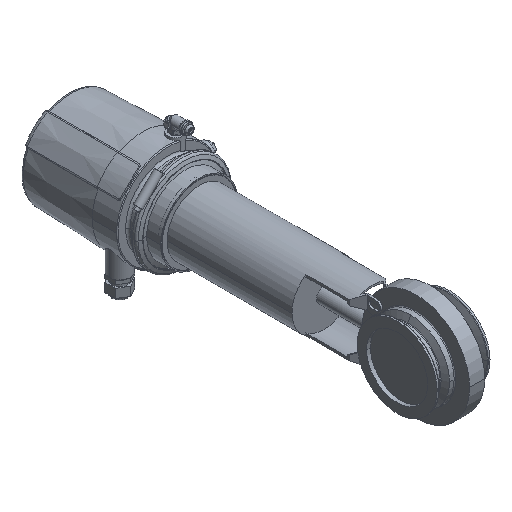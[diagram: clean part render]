
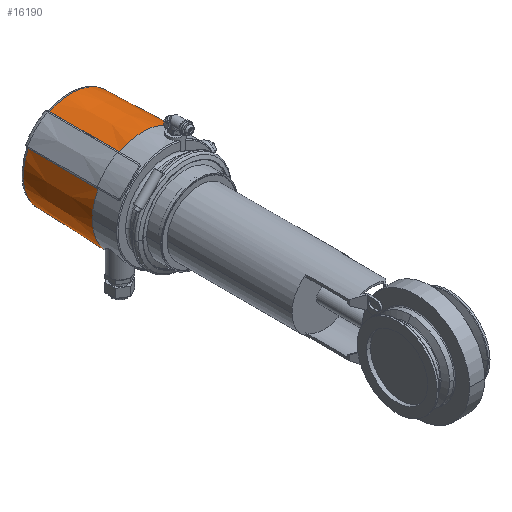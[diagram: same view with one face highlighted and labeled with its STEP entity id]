
A CAD part, isometric view. The second image highlights one B-rep face of the part: STEP entity #16190.
In plain terms, the highlighted conical face has half-angle 2 degrees and reference radius 66.69 mm.
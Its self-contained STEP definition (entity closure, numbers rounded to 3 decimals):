
#15470=CARTESIAN_POINT('',(0.,71.37,0.));
#15480=DIRECTION('',(0.,-1.,0.));
#15490=DIRECTION('',(-1.,-0.,0.));
#15500=AXIS2_PLACEMENT_3D('',#15470,#15480,#15490);
#15510=CONICAL_SURFACE('',#15500,66.69,0.035);
#15520=CARTESIAN_POINT('',(-31.074,62.5,
59.358));
#15530=CARTESIAN_POINT('',(-30.972,66.459,
59.256));
#15540=CARTESIAN_POINT('',(-30.869,70.417,
59.153));
#15550=CARTESIAN_POINT('',(-30.767,74.376,
59.051));
#15560=CARTESIAN_POINT('',(-30.664,78.335,
58.948));
#15570=CARTESIAN_POINT('',(-30.562,82.294,
58.846));
#15580=CARTESIAN_POINT('',(-30.459,86.252,
58.743));
#15590=CARTESIAN_POINT('',(-30.254,94.17,
58.538));
#15600=CARTESIAN_POINT('',(-30.049,102.087,
58.333));
#15610=CARTESIAN_POINT('',(-29.843,110.004,
58.128));
#15620=CARTESIAN_POINT('',(-29.638,117.922,
57.922));
#15630=CARTESIAN_POINT('',(-29.433,125.839,
57.717));
#15640=CARTESIAN_POINT('',(-29.227,133.757,
57.511));
#15650=CARTESIAN_POINT('',(-29.021,141.674,
57.306));
#15660=CARTESIAN_POINT('',(-28.816,149.591,
57.1));
#15670=CARTESIAN_POINT('',(-28.61,157.509,
56.894));
#15680=B_SPLINE_CURVE_WITH_KNOTS('',3,(#15520,#15530,#15540,#15550,
#15560,#15570,#15580,#15590,#15600,#15610,#15620,#15630,#15640,#15650,
#15660,#15670),.UNSPECIFIED.,.F.,.F.,(4,3,3,3,3,4),(0.,11.884,
23.768,47.536,71.305,95.073),
.UNSPECIFIED.);
#15690=CARTESIAN_POINT('',(-31.074,62.5,
59.358));
#15700=VERTEX_POINT('',#15690);
#15710=CARTESIAN_POINT('',(-28.61,157.509,
56.894));
#15720=VERTEX_POINT('',#15710);
#15730=EDGE_CURVE('',#15700,#15720,#15680,.T.);
#15740=ORIENTED_EDGE('',*,*,#15730,.F.);
#15750=CARTESIAN_POINT('',(0.,157.509,0.));
#15760=DIRECTION('',(0.,1.,0.));
#15770=DIRECTION('',(1.,0.,0.));
#15780=AXIS2_PLACEMENT_3D('',#15750,#15760,#15770);
#15790=CIRCLE('',#15780,63.682);
#15800=CARTESIAN_POINT('',(-56.894,157.509,
28.61));
#15810=VERTEX_POINT('',#15800);
#15820=EDGE_CURVE('',#15720,#15810,#15790,.T.);
#15830=ORIENTED_EDGE('',*,*,#15820,.F.);
#15840=CARTESIAN_POINT('',(-56.894,157.509,
28.61));
#15850=CARTESIAN_POINT('',(-57.1,149.591,
28.816));
#15860=CARTESIAN_POINT('',(-57.306,141.674,
29.021));
#15870=CARTESIAN_POINT('',(-57.511,133.757,
29.227));
#15880=CARTESIAN_POINT('',(-57.717,125.839,
29.433));
#15890=CARTESIAN_POINT('',(-57.922,117.922,
29.638));
#15900=CARTESIAN_POINT('',(-58.128,110.004,
29.843));
#15910=CARTESIAN_POINT('',(-58.333,102.087,
30.049));
#15920=CARTESIAN_POINT('',(-58.538,94.17,
30.254));
#15930=CARTESIAN_POINT('',(-58.743,86.252,
30.459));
#15940=CARTESIAN_POINT('',(-58.948,78.335,
30.664));
#15950=CARTESIAN_POINT('',(-59.153,70.417,
30.869));
#15960=CARTESIAN_POINT('',(-59.358,62.5,
31.074));
#15970=B_SPLINE_CURVE_WITH_KNOTS('',3,(#15840,#15850,#15860,#15870,
#15880,#15890,#15900,#15910,#15920,#15930,#15940,#15950,#15960),
.UNSPECIFIED.,.F.,.F.,(4,3,3,3,4),(0.,23.768,47.536,
71.305,95.073),.UNSPECIFIED.);
#15980=CARTESIAN_POINT('',(-59.358,62.5,
31.074));
#15990=VERTEX_POINT('',#15980);
#16000=EDGE_CURVE('',#15810,#15990,#15970,.T.);
#16010=ORIENTED_EDGE('',*,*,#16000,.F.);
#16020=CARTESIAN_POINT('',(0.,62.5,0.));
#16030=DIRECTION('',(0.,-1.,0.));
#16040=DIRECTION('',(-1.,0.,0.));
#16050=AXIS2_PLACEMENT_3D('',#16020,#16030,#16040);
#16060=CIRCLE('',#16050,67.);
#16070=CARTESIAN_POINT('',(-67.,62.5,
0.));
#16080=VERTEX_POINT('',#16070);
#16090=EDGE_CURVE('',#15990,#16080,#16060,.T.);
#16100=ORIENTED_EDGE('',*,*,#16090,.F.);
#16110=CARTESIAN_POINT('',(67.,62.5,0.));
#16120=VERTEX_POINT('',#16110);
#16130=EDGE_CURVE('',#16080,#16120,#16060,.T.);
#16140=ORIENTED_EDGE('',*,*,#16130,.F.);
#16150=EDGE_CURVE('',#16120,#15700,#16060,.T.);
#16160=ORIENTED_EDGE('',*,*,#16150,.F.);
#16170=EDGE_LOOP('',(#16160,#16140,#16100,#16010,#15830,#15740));
#16180=FACE_OUTER_BOUND('',#16170,.T.);
#16190=ADVANCED_FACE('',(#16180),#15510,.T.);
